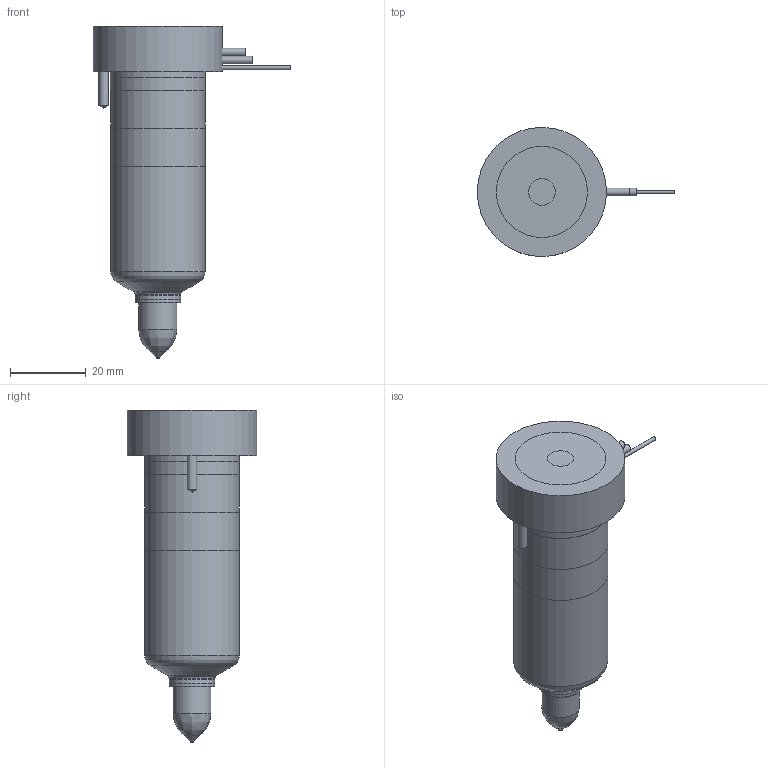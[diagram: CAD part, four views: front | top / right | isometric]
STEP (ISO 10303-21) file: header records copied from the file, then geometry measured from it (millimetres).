
FILE_DESCRIPTION(/* description */ (''),/* implementation_level */ '2;1');
FILE_NAME(/* name */ 'MXTT-MXIT16065-10_200C_b',/* time_stamp */ '2007-01-18T09:52:54+13:00',/* author */ (''),/* organization */ (''),/* preprocessor_version */ 'ST-DEVELOPER v9',/* originating_system */ 'UGS - NX 4.0',/* authorisation */ '');
FILE_SCHEMA (('CONFIG_CONTROL_DESIGN'));
Length unit declared in the file: millimetre
Products named in the file (1): MXTT-MXIT16065-10_200C_b
Bounding box: 51.95 x 34 x 87.4 mm (x, y, z)
Volume: 71533.7 mm3; surface area: 17095 mm2
Topology: 7 solids, 7 shells, 86 faces, 162 edges, 102 vertices
Faces by surface type: plane 35, cylinder 29, cone 12, torus 8, bspline 2
Full cylindrical faces by diameter (mm): 1 x4, 2 x2, 2.5 x2, 6.5 x1, 7 x1, 10 x1, 11.61 x1, 12.01 x2, 14.8 x1, 20.8 x1, 24.9 x2, 25 x2, 34 x1
Entity records: 2065 total; most frequent: CARTESIAN_POINT 423, DIRECTION 352, ORIENTED_EDGE 228, AXIS2_PLACEMENT_3D 163, EDGE_LOOP 138, EDGE_CURVE 114, VERTEX_POINT 95, ADVANCED_FACE 86
